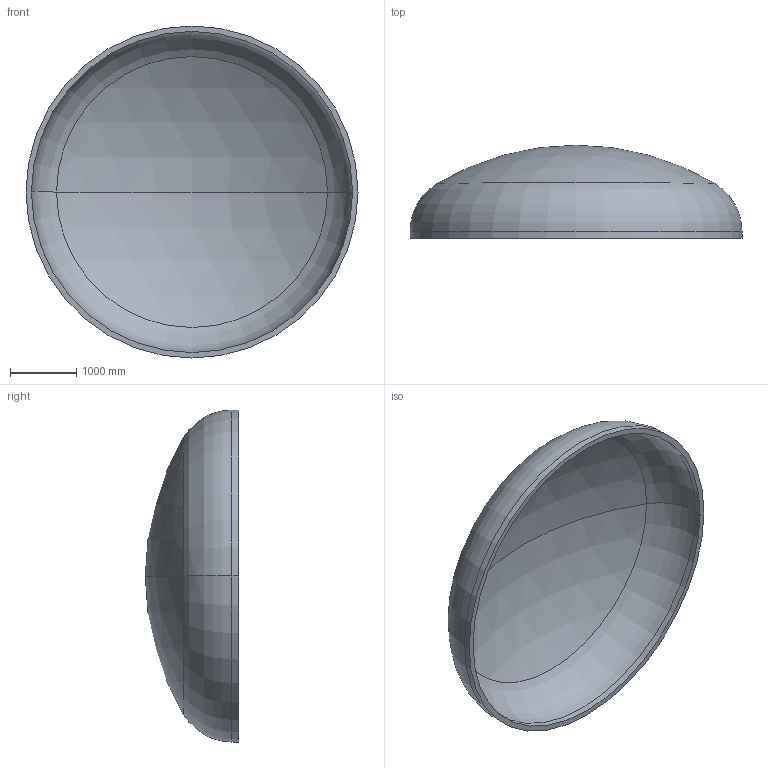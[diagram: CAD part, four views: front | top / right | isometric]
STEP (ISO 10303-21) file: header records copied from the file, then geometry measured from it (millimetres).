
FILE_DESCRIPTION (( 'STEP AP203' ), '1' );
FILE_NAME ('DIN 28013 Korbbogenform_-_Boden DIN 28013 - 5000 x 100 - I - s=82.step', '2016-07-02T00:48:22', ( '' ), ( '' ), 'SwSTEP 2.0', 'SolidWorks 2013', '' );
FILE_SCHEMA (( 'CONFIG_CONTROL_DESIGN' ));
Length unit declared in the file: millimetre
Products named in the file (1): DIN 28013 Korbbogenform_-_Boden DIN 28013 - 5000 x 100 - I - s=82
Bounding box: 5000 x 1404.05 x 5000 mm (x, y, z)
Volume: 2308871974 mm3; surface area: 57594941.5 mm2
Topology: 1 solids, 1 shells, 13 faces, 24 edges, 14 vertices
Faces by surface type: torus 4, cylinder 4, sphere 4, plane 1
Entity records: 407 total; most frequent: DIRECTION 72, CARTESIAN_POINT 52, ORIENTED_EDGE 48, AXIS2_PLACEMENT_3D 34, EDGE_CURVE 24, CIRCLE 20, EDGE_LOOP 14, VERTEX_POINT 14
